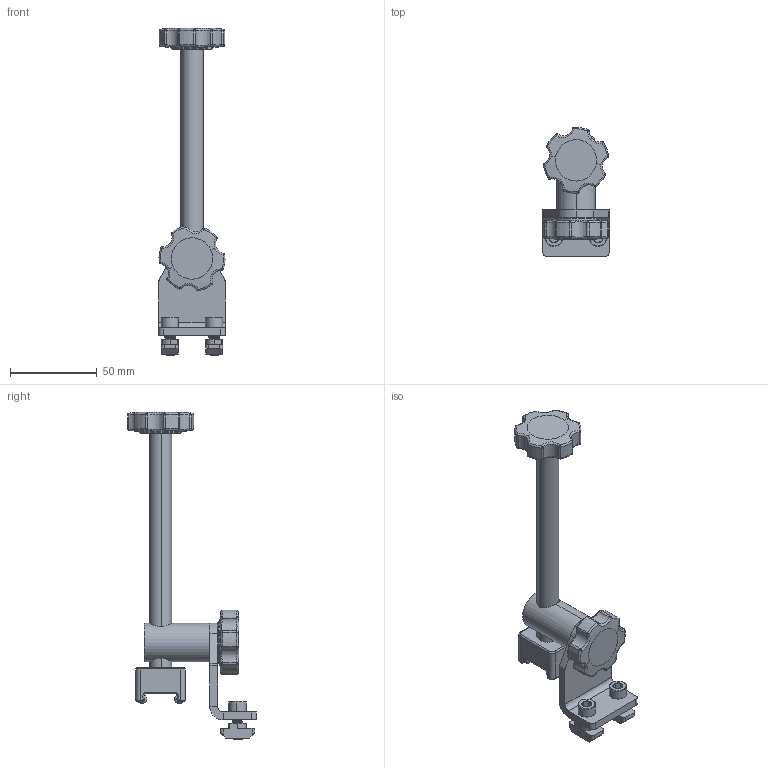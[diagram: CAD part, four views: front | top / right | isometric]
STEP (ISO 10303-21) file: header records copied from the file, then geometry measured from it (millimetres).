
FILE_DESCRIPTION((''),'2;1');
FILE_NAME('207151_ASM','2016-08-23T',('adam.dellomodarme'),(''),'PRO/ENGINEER BY PARAMETRIC TECHNOLOGY CORPORATION, 2012420','PRO/ENGINEER BY PARAMETRIC TECHNOLOGY CORPORATION, 2012420','');
FILE_SCHEMA(('CONFIG_CONTROL_DESIGN'));
Length unit declared in the file: inch
Products named in the file (18): 206685_1; 207146_1; 9206XXM_920625M_1; 206696_91175A710_1; 206697_207155_ASM_1_ASM; 206382_206382_1; 9206XXM_9206150M_1; 206697_206697_ASM_1_ASM; 807-2859_91760A321_1; 206397_NO_DRAFT_1; 807-920_1; 990601M_1; 206692_1; 207147_207147_1; 206383_206383_1; ASM0001_ASM_1_ASM; 207151_ASM_1_ASM; 207151_ASM
Assembly tree (20 placements, depth 5):
  207151_ASM
    207151_ASM_1_ASM
      ASM0001_ASM_1_ASM
        206685_1  x2
        207146_1
        206697_207155_ASM_1_ASM
          9206XXM_920625M_1
          206696_91175A710_1
        206382_206382_1
        206697_206697_ASM_1_ASM
          9206XXM_9206150M_1
          206696_91175A710_1
        807-2859_91760A321_1  x2
        206397_NO_DRAFT_1
        807-920_1
        990601M_1
        206692_1
        207147_207147_1
        206383_206383_1
Bounding box: 38.1 x 74.02 x 188.31 mm (x, y, z)
Volume: 69697.5 mm3; surface area: 44164.2 mm2
Topology: 16 solids, 16 shells, 921 faces, 2339 edges, 1371 vertices
Faces by surface type: cylinder 405, plane 172, bspline 108, torus 83, cone 75, sphere 74, extrusion 4
Entity records: 31412 total; most frequent: CARTESIAN_POINT 16048, ORIENTED_EDGE 3242, DIRECTION 3012, EDGE_CURVE 1621, AXIS2_PLACEMENT_3D 1226, VERTEX_POINT 975, EDGE_LOOP 704, FACE_OUTER_BOUND 673
